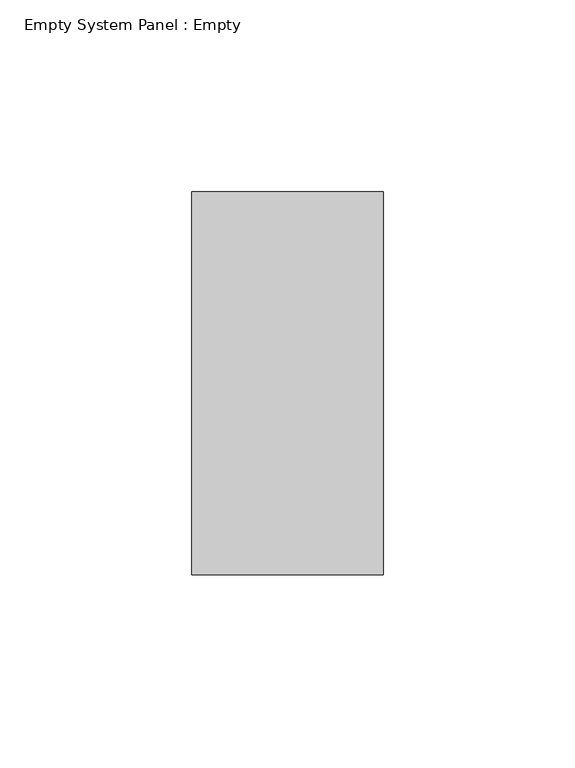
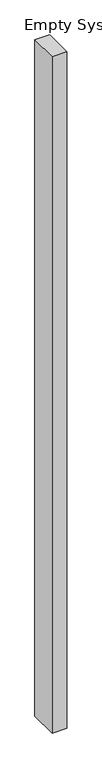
"""IFC4 building model written with IfcOpenShell, lengths in millimetres: plate geometry, Empty System Panel : Empty."""

import ifcopenshell
import ifcopenshell.guid

model = None  # the IFC model being written
_history = None  # IfcOwnerHistory: only IFC2X3 demands one
_inside = {}  # id of a spatial element -> (the spatial element, [elements in it])
_under = {}  # id of a project, library or spatial element -> (it, [spatial elements below it])
_declared = {}  # id of a project -> (the project, [libraries it declares])
_typed = {}  # id of a type object -> (the type object, [elements of that type])
_made_of = {}  # id of a material, layer set ... -> (it, [elements and type objects made of it])


def new_model(schema):
    """Start an empty IFC model of exactly this schema.

    Asked for "IFC4X3", IfcOpenShell would pick the latest addendum, in which some entities
    have other attributes; the version numbers below select the first issue.
    IFC2X3 requires an IfcOwnerHistory on every rooted entity: one is made here for all.
    """
    global model, _history
    if schema == "IFC4X3":
        model = ifcopenshell.file(schema_version=(4, 3, 0, 0))
    else:
        model = ifcopenshell.file(schema=schema)
    _inside.clear()
    _under.clear()
    _declared.clear()
    _typed.clear()
    _made_of.clear()
    _history = None
    if model.schema == "IFC2X3":
        org = make("IfcOrganization", Name="unknown")
        user = make(
            "IfcPersonAndOrganization",
            ThePerson=make("IfcPerson", FamilyName="unknown"),
            TheOrganization=org,
        )
        app = make(
            "IfcApplication",
            ApplicationDeveloper=org,
            Version="unknown",
            ApplicationFullName="unknown",
            ApplicationIdentifier="unknown",
        )
        _history = make(
            "IfcOwnerHistory",
            OwningUser=user,
            OwningApplication=app,
            ChangeAction="ADDED",
            CreationDate=0,
        )
    return model


def make(cls, **values):
    """One entity of the class cls with the attributes given. An attribute that is None is left unset."""
    return model.create_entity(
        cls, **{name: value for name, value in values.items() if value is not None}
    )


def rooted(cls, **values):
    """An entity with a GlobalId (a new one), such as an element, a storey or a relation."""
    return make(cls, GlobalId=ifcopenshell.guid.new(), OwnerHistory=_history, **values)


def si_unit(unit_type, name, prefix=None):
    """IfcSIUnit, for example si_unit("LENGTHUNIT", "METRE", prefix="MILLI")."""
    return make("IfcSIUnit", UnitType=unit_type, Prefix=prefix, Name=name)


def assignment(units):
    """IfcUnitAssignment: the units of a project."""
    return None if units is None else make("IfcUnitAssignment", Units=units)


def point(xyz):
    """IfcCartesianPoint."""
    return None if xyz is None else make("IfcCartesianPoint", Coordinates=xyz)


def direction(xyz):
    """IfcDirection."""
    return None if xyz is None else make("IfcDirection", DirectionRatios=xyz)


def frame(location, z_axis=None, x_axis=None):
    """IfcAxis2Placement3D, a coordinate frame: its origin and axes. An axis left out is left unset."""
    return make(
        "IfcAxis2Placement3D",
        Location=point(location),
        Axis=direction(z_axis),
        RefDirection=direction(x_axis),
    )


def origin():
    """The frame at (0, 0, 0) with its axes left unset."""
    return frame((0.0, 0.0, 0.0))


def origin_with_axes():
    """The frame at (0, 0, 0) with the z axis (0, 0, 1) and the x axis (1, 0, 0) written out."""
    return frame((0.0, 0.0, 0.0), z_axis=(0.0, 0.0, 1.0), x_axis=(1.0, 0.0, 0.0))


def place(relative_to, where):
    """IfcLocalPlacement: puts the frame where relative to a parent placement (None: the world)."""
    return make(
        "IfcLocalPlacement", PlacementRelTo=relative_to, RelativePlacement=where
    )


def context(
    kind, dimensions, precision=None, world=None, true_north=None, identifier=None
):
    """IfcGeometricRepresentationContext, for example the 3D "Model" context."""
    return make(
        "IfcGeometricRepresentationContext",
        ContextIdentifier=identifier,
        ContextType=kind,
        CoordinateSpaceDimension=dimensions,
        Precision=precision,
        WorldCoordinateSystem=world,
        TrueNorth=true_north,
    )


def project(units=None, contexts=None):
    """IfcProject with its units and contexts."""
    return rooted(
        "IfcProject",
        Name="project",
        RepresentationContexts=contexts,
        UnitsInContext=assignment(units),
    )


def spatial(cls, under=None, at=None, **own):
    """A site, building, storey or space (cls), placed at a placement, below another one or the project."""
    s = rooted(cls, ObjectPlacement=at, **own)
    if under is not None:
        _under.setdefault(under.id(), (under, []))[1].append(s)
    return s


def polyline(points):
    """IfcPolyline through the points."""
    return make("IfcPolyline", Points=[point(p) for p in points])


def outline(outer, holes=None, kind="AREA"):
    """IfcArbitraryClosedProfileDef: a profile drawn as a closed curve; with holes, ...WithVoids."""
    if holes is None:
        return make("IfcArbitraryClosedProfileDef", ProfileType=kind, OuterCurve=outer)
    return make(
        "IfcArbitraryProfileDefWithVoids",
        ProfileType=kind,
        OuterCurve=outer,
        InnerCurves=holes,
    )


def extrude(swept, where, along, depth):
    """IfcExtrudedAreaSolid: the profile swept, set in the frame where, extruded along a direction by depth."""
    return make(
        "IfcExtrudedAreaSolid",
        SweptArea=swept,
        Position=where,
        ExtrudedDirection=direction(along),
        Depth=depth,
    )


def shape(context_of_items, identifier, shape_type, items):
    """IfcShapeRepresentation: the items that make up one representation, for example the "Body"."""
    return make(
        "IfcShapeRepresentation",
        ContextOfItems=context_of_items,
        RepresentationIdentifier=identifier,
        RepresentationType=shape_type,
        Items=items,
    )


def source(mapping_origin, context_of_items, identifier, shape_type, items):
    """IfcRepresentationMap: a shape defined once, which mapped items show again and again."""
    return make(
        "IfcRepresentationMap",
        MappingOrigin=mapping_origin,
        MappedRepresentation=shape(context_of_items, identifier, shape_type, items),
    )


def transform(
    local_origin,
    x_axis=None,
    y_axis=None,
    z_axis=None,
    scale=None,
    scale2=None,
    scale3=None,
    uniform=True,
):
    """IfcCartesianTransformationOperator3D, or its non-uniform kind. x_axis, y_axis, z_axis: its Axis1, 2, 3."""
    if uniform:
        return make(
            "IfcCartesianTransformationOperator3D",
            Axis1=direction(x_axis),
            Axis2=direction(y_axis),
            LocalOrigin=point(local_origin),
            Scale=scale,
            Axis3=direction(z_axis),
        )
    return make(
        "IfcCartesianTransformationOperator3DnonUniform",
        Axis1=direction(x_axis),
        Axis2=direction(y_axis),
        LocalOrigin=point(local_origin),
        Scale=scale,
        Axis3=direction(z_axis),
        Scale2=scale2,
        Scale3=scale3,
    )


def mapped(mapping_source, mapping_target):
    """IfcMappedItem: shows the shape of a source again, moved by a transform."""
    return make(
        "IfcMappedItem", MappingSource=mapping_source, MappingTarget=mapping_target
    )


def made_of(thing, what):
    """Note that an element or type object is made of a material, layer set ...; save() writes the relation."""
    if what is not None:
        _made_of.setdefault(what.id(), (what, []))[1].append(thing)
    return thing


def element(
    cls,
    number,
    at=None,
    inside=None,
    cuts=None,
    type_object=None,
    material=None,
    context=None,
    identifier="Body",
    shape_type=None,
    held_by="IfcProductDefinitionShape",
    body=None,
    shapes=None,
    **own,
):
    """One element of the class cls, such as IfcWall. Its Tag is "e" and its number.

    at: its placement. inside: the storey or other place that contains it. cuts: it is an
    opening in that element (IfcRelVoidsElement). A single representation is given by context,
    identifier, shape_type and body (its items); several are given by shapes. held_by: the class
    of the entity that holds the representations. save() writes the other relations.
    """
    e = rooted(cls, Tag="e%d" % number, ObjectPlacement=at, **own)
    if body is not None:
        shapes = [shape(context, identifier, shape_type, body)]
    if shapes is not None:
        e.Representation = make(held_by, Representations=shapes)
    if inside is not None:
        _inside.setdefault(inside.id(), (inside, []))[1].append(e)
    if cuts is not None:
        rooted(
            "IfcRelVoidsElement", RelatingBuildingElement=cuts, RelatedOpeningElement=e
        )
    if type_object is not None:
        _typed.setdefault(type_object.id(), (type_object, []))[1].append(e)
    return made_of(e, material)


def aggregate(whole, parts):
    """IfcRelAggregates: a whole, such as a stair, and the parts it consists of."""
    return rooted("IfcRelAggregates", RelatingObject=whole, RelatedObjects=parts)


def save(model, path):
    """Write the relations noted so far, then the file.

    IfcRelAggregates (storeys below a building ...), IfcRelContainedInSpatialStructure (elements
    in a storey), IfcRelDefinesByType, IfcRelAssociatesMaterial and IfcRelDeclares: one each for
    every whole, place, type object, material and project.
    """
    for whole, parts in _under.values():
        aggregate(whole, parts)
    for where, things in _inside.values():
        rooted(
            "IfcRelContainedInSpatialStructure",
            RelatedElements=things,
            RelatingStructure=where,
        )
    for kind, things in _typed.values():
        rooted("IfcRelDefinesByType", RelatedObjects=things, RelatingType=kind)
    for what, things in _made_of.values():
        rooted("IfcRelAssociatesMaterial", RelatedObjects=things, RelatingMaterial=what)
    for by, libraries in _declared.values():
        rooted("IfcRelDeclares", RelatingContext=by, RelatedDefinitions=libraries)
    model.write(path)


def empty_system_panel_empty_d00b11f0(model_context):
    return source(origin(), model_context, "Body", "SweptSolid", [
        extrude(outline(polyline([(25.0, -100.0), (-25.0, -100.0), (-25.0, 0.0), (25.0, 0.0), (25.0, -100.0)])), origin_with_axes(), (0.0, 0.0, 1.0), 2400.0),
    ])


if __name__ == "__main__":
    model = new_model("IFC4")
    model_context = context("Model", 3, world=origin())
    ifc_project = project(units=[si_unit("LENGTHUNIT", "METRE", prefix="MILLI")], contexts=[model_context])
    site = spatial("IfcSite", under=ifc_project)
    building = spatial("IfcBuilding", under=site)
    placement = place(None, origin())
    empty_system_panel_empty_shape = empty_system_panel_empty_d00b11f0(model_context)
    element("IfcPlate", 1, ObjectType="Empty System Panel : Empty", at=placement, inside=building, context=model_context, shape_type="MappedRepresentation", body=[
        mapped(empty_system_panel_empty_shape, transform((0.0, 0.0, 0.0), x_axis=(1.0, 0.0, 0.0), y_axis=(0.0, 1.0, 0.0), z_axis=(0.0, 0.0, 1.0))),
    ])
    save(model, "model.ifc")
